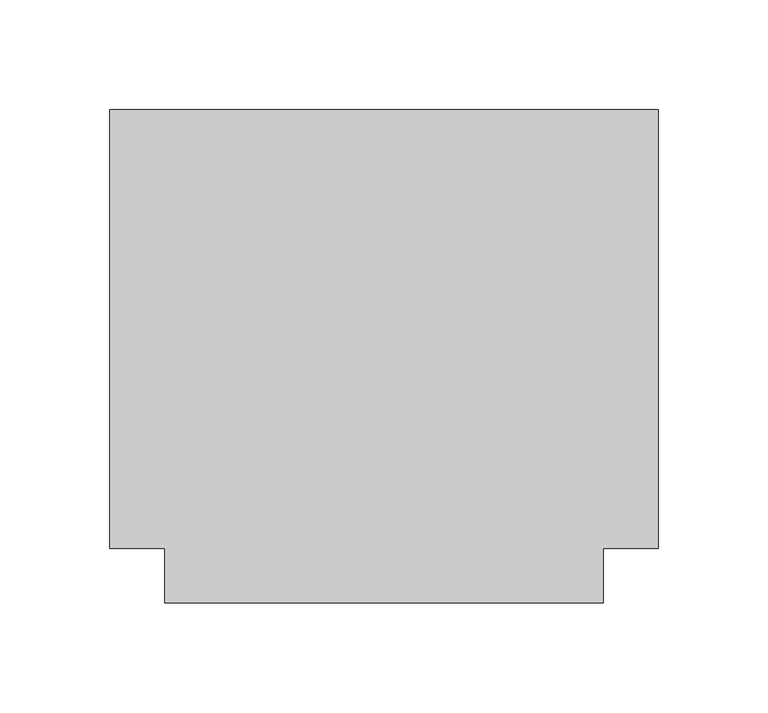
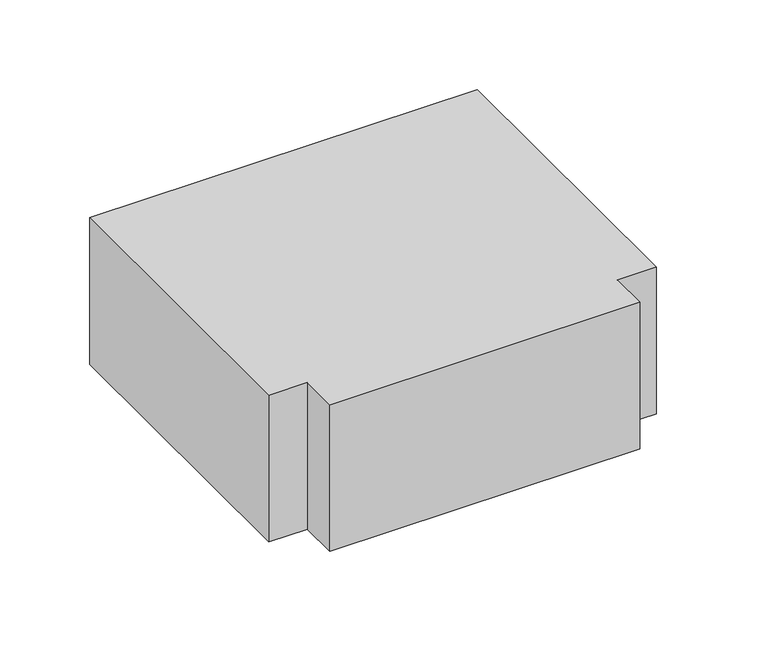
"""IFC4 building model written with IfcOpenShell, lengths in millimetres: duct fitting geometry, M_Te rectangular : Estándar."""

import ifcopenshell
import ifcopenshell.guid

model = None  # the IFC model being written
_history = None  # IfcOwnerHistory: only IFC2X3 demands one
_inside = {}  # id of a spatial element -> (the spatial element, [elements in it])
_under = {}  # id of a project, library or spatial element -> (it, [spatial elements below it])
_declared = {}  # id of a project -> (the project, [libraries it declares])
_typed = {}  # id of a type object -> (the type object, [elements of that type])
_made_of = {}  # id of a material, layer set ... -> (it, [elements and type objects made of it])


def new_model(schema):
    """Start an empty IFC model of exactly this schema.

    Asked for "IFC4X3", IfcOpenShell would pick the latest addendum, in which some entities
    have other attributes; the version numbers below select the first issue.
    IFC2X3 requires an IfcOwnerHistory on every rooted entity: one is made here for all.
    """
    global model, _history
    if schema == "IFC4X3":
        model = ifcopenshell.file(schema_version=(4, 3, 0, 0))
    else:
        model = ifcopenshell.file(schema=schema)
    _inside.clear()
    _under.clear()
    _declared.clear()
    _typed.clear()
    _made_of.clear()
    _history = None
    if model.schema == "IFC2X3":
        org = make("IfcOrganization", Name="unknown")
        user = make(
            "IfcPersonAndOrganization",
            ThePerson=make("IfcPerson", FamilyName="unknown"),
            TheOrganization=org,
        )
        app = make(
            "IfcApplication",
            ApplicationDeveloper=org,
            Version="unknown",
            ApplicationFullName="unknown",
            ApplicationIdentifier="unknown",
        )
        _history = make(
            "IfcOwnerHistory",
            OwningUser=user,
            OwningApplication=app,
            ChangeAction="ADDED",
            CreationDate=0,
        )
    return model


def make(cls, **values):
    """One entity of the class cls with the attributes given. An attribute that is None is left unset."""
    return model.create_entity(
        cls, **{name: value for name, value in values.items() if value is not None}
    )


def rooted(cls, **values):
    """An entity with a GlobalId (a new one), such as an element, a storey or a relation."""
    return make(cls, GlobalId=ifcopenshell.guid.new(), OwnerHistory=_history, **values)


def si_unit(unit_type, name, prefix=None):
    """IfcSIUnit, for example si_unit("LENGTHUNIT", "METRE", prefix="MILLI")."""
    return make("IfcSIUnit", UnitType=unit_type, Prefix=prefix, Name=name)


def assignment(units):
    """IfcUnitAssignment: the units of a project."""
    return None if units is None else make("IfcUnitAssignment", Units=units)


def point(xyz):
    """IfcCartesianPoint."""
    return None if xyz is None else make("IfcCartesianPoint", Coordinates=xyz)


def direction(xyz):
    """IfcDirection."""
    return None if xyz is None else make("IfcDirection", DirectionRatios=xyz)


def frame(location, z_axis=None, x_axis=None):
    """IfcAxis2Placement3D, a coordinate frame: its origin and axes. An axis left out is left unset."""
    return make(
        "IfcAxis2Placement3D",
        Location=point(location),
        Axis=direction(z_axis),
        RefDirection=direction(x_axis),
    )


def origin():
    """The frame at (0, 0, 0) with its axes left unset."""
    return frame((0.0, 0.0, 0.0))


def place(relative_to, where):
    """IfcLocalPlacement: puts the frame where relative to a parent placement (None: the world)."""
    return make(
        "IfcLocalPlacement", PlacementRelTo=relative_to, RelativePlacement=where
    )


def context(
    kind, dimensions, precision=None, world=None, true_north=None, identifier=None
):
    """IfcGeometricRepresentationContext, for example the 3D "Model" context."""
    return make(
        "IfcGeometricRepresentationContext",
        ContextIdentifier=identifier,
        ContextType=kind,
        CoordinateSpaceDimension=dimensions,
        Precision=precision,
        WorldCoordinateSystem=world,
        TrueNorth=true_north,
    )


def project(units=None, contexts=None):
    """IfcProject with its units and contexts."""
    return rooted(
        "IfcProject",
        Name="project",
        RepresentationContexts=contexts,
        UnitsInContext=assignment(units),
    )


def spatial(cls, under=None, at=None, **own):
    """A site, building, storey or space (cls), placed at a placement, below another one or the project."""
    s = rooted(cls, ObjectPlacement=at, **own)
    if under is not None:
        _under.setdefault(under.id(), (under, []))[1].append(s)
    return s


def polyline(points):
    """IfcPolyline through the points."""
    return make("IfcPolyline", Points=[point(p) for p in points])


def outline(outer, holes=None, kind="AREA"):
    """IfcArbitraryClosedProfileDef: a profile drawn as a closed curve; with holes, ...WithVoids."""
    if holes is None:
        return make("IfcArbitraryClosedProfileDef", ProfileType=kind, OuterCurve=outer)
    return make(
        "IfcArbitraryProfileDefWithVoids",
        ProfileType=kind,
        OuterCurve=outer,
        InnerCurves=holes,
    )


def extrude(swept, where, along, depth):
    """IfcExtrudedAreaSolid: the profile swept, set in the frame where, extruded along a direction by depth."""
    return make(
        "IfcExtrudedAreaSolid",
        SweptArea=swept,
        Position=where,
        ExtrudedDirection=direction(along),
        Depth=depth,
    )


def shape(context_of_items, identifier, shape_type, items):
    """IfcShapeRepresentation: the items that make up one representation, for example the "Body"."""
    return make(
        "IfcShapeRepresentation",
        ContextOfItems=context_of_items,
        RepresentationIdentifier=identifier,
        RepresentationType=shape_type,
        Items=items,
    )


def source(mapping_origin, context_of_items, identifier, shape_type, items):
    """IfcRepresentationMap: a shape defined once, which mapped items show again and again."""
    return make(
        "IfcRepresentationMap",
        MappingOrigin=mapping_origin,
        MappedRepresentation=shape(context_of_items, identifier, shape_type, items),
    )


def transform(
    local_origin,
    x_axis=None,
    y_axis=None,
    z_axis=None,
    scale=None,
    scale2=None,
    scale3=None,
    uniform=True,
):
    """IfcCartesianTransformationOperator3D, or its non-uniform kind. x_axis, y_axis, z_axis: its Axis1, 2, 3."""
    if uniform:
        return make(
            "IfcCartesianTransformationOperator3D",
            Axis1=direction(x_axis),
            Axis2=direction(y_axis),
            LocalOrigin=point(local_origin),
            Scale=scale,
            Axis3=direction(z_axis),
        )
    return make(
        "IfcCartesianTransformationOperator3DnonUniform",
        Axis1=direction(x_axis),
        Axis2=direction(y_axis),
        LocalOrigin=point(local_origin),
        Scale=scale,
        Axis3=direction(z_axis),
        Scale2=scale2,
        Scale3=scale3,
    )


def mapped(mapping_source, mapping_target):
    """IfcMappedItem: shows the shape of a source again, moved by a transform."""
    return make(
        "IfcMappedItem", MappingSource=mapping_source, MappingTarget=mapping_target
    )


def made_of(thing, what):
    """Note that an element or type object is made of a material, layer set ...; save() writes the relation."""
    if what is not None:
        _made_of.setdefault(what.id(), (what, []))[1].append(thing)
    return thing


def element(
    cls,
    number,
    at=None,
    inside=None,
    cuts=None,
    type_object=None,
    material=None,
    context=None,
    identifier="Body",
    shape_type=None,
    held_by="IfcProductDefinitionShape",
    body=None,
    shapes=None,
    **own,
):
    """One element of the class cls, such as IfcWall. Its Tag is "e" and its number.

    at: its placement. inside: the storey or other place that contains it. cuts: it is an
    opening in that element (IfcRelVoidsElement). A single representation is given by context,
    identifier, shape_type and body (its items); several are given by shapes. held_by: the class
    of the entity that holds the representations. save() writes the other relations.
    """
    e = rooted(cls, Tag="e%d" % number, ObjectPlacement=at, **own)
    if body is not None:
        shapes = [shape(context, identifier, shape_type, body)]
    if shapes is not None:
        e.Representation = make(held_by, Representations=shapes)
    if inside is not None:
        _inside.setdefault(inside.id(), (inside, []))[1].append(e)
    if cuts is not None:
        rooted(
            "IfcRelVoidsElement", RelatingBuildingElement=cuts, RelatedOpeningElement=e
        )
    if type_object is not None:
        _typed.setdefault(type_object.id(), (type_object, []))[1].append(e)
    return made_of(e, material)


def aggregate(whole, parts):
    """IfcRelAggregates: a whole, such as a stair, and the parts it consists of."""
    return rooted("IfcRelAggregates", RelatingObject=whole, RelatedObjects=parts)


def save(model, path):
    """Write the relations noted so far, then the file.

    IfcRelAggregates (storeys below a building ...), IfcRelContainedInSpatialStructure (elements
    in a storey), IfcRelDefinesByType, IfcRelAssociatesMaterial and IfcRelDeclares: one each for
    every whole, place, type object, material and project.
    """
    for whole, parts in _under.values():
        aggregate(whole, parts)
    for where, things in _inside.values():
        rooted(
            "IfcRelContainedInSpatialStructure",
            RelatedElements=things,
            RelatingStructure=where,
        )
    for kind, things in _typed.values():
        rooted("IfcRelDefinesByType", RelatedObjects=things, RelatingType=kind)
    for what, things in _made_of.values():
        rooted("IfcRelAssociatesMaterial", RelatedObjects=things, RelatingMaterial=what)
    for by, libraries in _declared.values():
        rooted("IfcRelDeclares", RelatingContext=by, RelatedDefinitions=libraries)
    model.write(path)


def duct_fitting_5de37829(model_context):
    return source(origin(), model_context, "Body", "SweptSolid", [
        extrude(outline(polyline([(-125.0, -100.0), (-125.0, 100.0), (125.0, 100.0), (125.0, -100.0), (100.0, -100.0), (100.0, -125.0), (-100.0, -125.0), (-100.0, -100.0), (-125.0, -100.0)])), frame((0.0, 0.0, -50.0), z_axis=(0.0, 0.0, 1.0), x_axis=(1.0, 0.0, 0.0)), (0.0, 0.0, 1.0), 100.0),
    ])


if __name__ == "__main__":
    model = new_model("IFC4")
    model_context = context("Model", 3, world=origin())
    ifc_project = project(units=[si_unit("LENGTHUNIT", "METRE", prefix="MILLI")], contexts=[model_context])
    site = spatial("IfcSite", under=ifc_project)
    building = spatial("IfcBuilding", under=site)
    placement = place(None, origin())
    duct_fitting_shape = duct_fitting_5de37829(model_context)
    element("IfcDuctFitting", 1, ObjectType="M_Te rectangular : Estándar", at=placement, inside=building, context=model_context, shape_type="MappedRepresentation", body=[
        mapped(duct_fitting_shape, transform((0.0, 0.0, 0.0), x_axis=(1.0, 0.0, 0.0), y_axis=(0.0, 1.0, 0.0), z_axis=(0.0, 0.0, 1.0))),
    ])
    save(model, "model.ifc")
